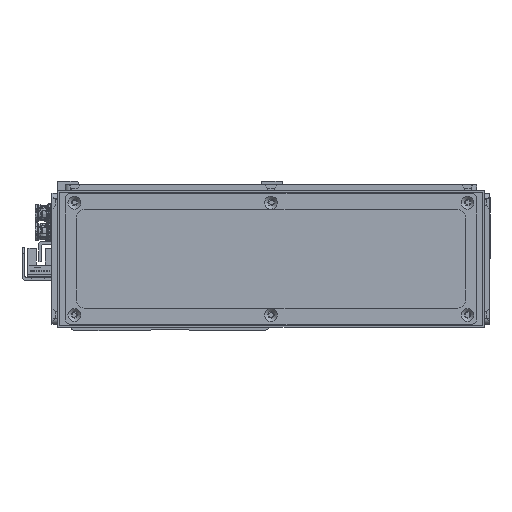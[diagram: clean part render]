
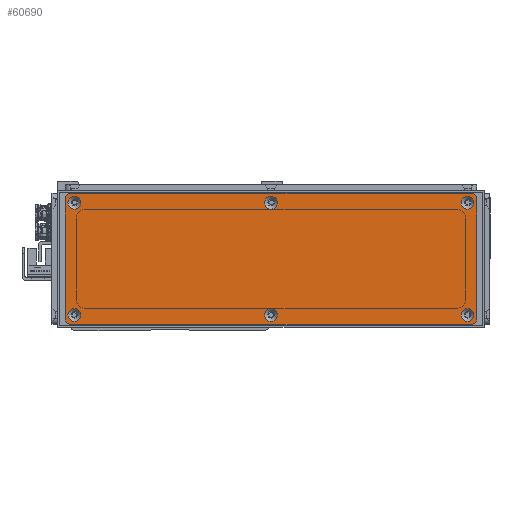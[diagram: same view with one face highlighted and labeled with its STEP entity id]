
A CAD part, front view. The second image highlights one B-rep face of the part: STEP entity #60690.
In plain terms, the highlighted planar face has unit normal (0, -1, 0).
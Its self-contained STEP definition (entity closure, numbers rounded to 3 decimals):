
#1520=FACE_BOUND('',#11047,.T.);
#1521=FACE_BOUND('',#11048,.T.);
#1522=FACE_BOUND('',#11049,.T.);
#1523=FACE_BOUND('',#11050,.T.);
#1524=FACE_BOUND('',#11051,.T.);
#1525=FACE_BOUND('',#11052,.T.);
#3594=PLANE('',#65432);
#7576=FACE_OUTER_BOUND('',#11046,.T.);
#11046=EDGE_LOOP('',(#56453,#56454,#56455,#56456,#56457,#56458,#56459,#56460));
#11047=EDGE_LOOP('',(#56461));
#11048=EDGE_LOOP('',(#56462));
#11049=EDGE_LOOP('',(#56463));
#11050=EDGE_LOOP('',(#56464));
#11051=EDGE_LOOP('',(#56465));
#11052=EDGE_LOOP('',(#56466));
#17692=LINE('',#101493,#24374);
#17693=LINE('',#101497,#24375);
#17694=LINE('',#101501,#24376);
#17695=LINE('',#101504,#24377);
#24374=VECTOR('',#80497,10.);
#24375=VECTOR('',#80500,10.);
#24376=VECTOR('',#80503,10.);
#24377=VECTOR('',#80506,10.);
#25972=CIRCLE('',#65400,3.45);
#25975=CIRCLE('',#65405,3.45);
#25978=CIRCLE('',#65410,3.45);
#25981=CIRCLE('',#65415,3.45);
#25984=CIRCLE('',#65420,3.45);
#25987=CIRCLE('',#65425,3.45);
#25990=CIRCLE('',#65430,3.);
#25992=CIRCLE('',#65433,3.);
#25993=CIRCLE('',#65434,3.);
#25994=CIRCLE('',#65435,3.);
#31559=VERTEX_POINT('',#101423);
#31562=VERTEX_POINT('',#101433);
#31565=VERTEX_POINT('',#101443);
#31568=VERTEX_POINT('',#101453);
#31571=VERTEX_POINT('',#101463);
#31574=VERTEX_POINT('',#101473);
#31577=VERTEX_POINT('',#101483);
#31578=VERTEX_POINT('',#101484);
#31581=VERTEX_POINT('',#101492);
#31582=VERTEX_POINT('',#101494);
#31583=VERTEX_POINT('',#101496);
#31584=VERTEX_POINT('',#101498);
#31585=VERTEX_POINT('',#101500);
#31586=VERTEX_POINT('',#101502);
#39910=EDGE_CURVE('',#31559,#31559,#25972,.T.);
#39915=EDGE_CURVE('',#31562,#31562,#25975,.T.);
#39920=EDGE_CURVE('',#31565,#31565,#25978,.T.);
#39925=EDGE_CURVE('',#31568,#31568,#25981,.T.);
#39930=EDGE_CURVE('',#31571,#31571,#25984,.T.);
#39935=EDGE_CURVE('',#31574,#31574,#25987,.T.);
#39940=EDGE_CURVE('',#31577,#31578,#25990,.T.);
#39944=EDGE_CURVE('',#31577,#31581,#17692,.T.);
#39945=EDGE_CURVE('',#31582,#31581,#25992,.T.);
#39946=EDGE_CURVE('',#31582,#31583,#17693,.T.);
#39947=EDGE_CURVE('',#31584,#31583,#25993,.T.);
#39948=EDGE_CURVE('',#31584,#31585,#17694,.T.);
#39949=EDGE_CURVE('',#31586,#31585,#25994,.T.);
#39950=EDGE_CURVE('',#31586,#31578,#17695,.T.);
#56453=ORIENTED_EDGE('',*,*,#39940,.F.);
#56454=ORIENTED_EDGE('',*,*,#39944,.T.);
#56455=ORIENTED_EDGE('',*,*,#39945,.F.);
#56456=ORIENTED_EDGE('',*,*,#39946,.T.);
#56457=ORIENTED_EDGE('',*,*,#39947,.F.);
#56458=ORIENTED_EDGE('',*,*,#39948,.T.);
#56459=ORIENTED_EDGE('',*,*,#39949,.F.);
#56460=ORIENTED_EDGE('',*,*,#39950,.T.);
#56461=ORIENTED_EDGE('',*,*,#39910,.T.);
#56462=ORIENTED_EDGE('',*,*,#39915,.T.);
#56463=ORIENTED_EDGE('',*,*,#39920,.T.);
#56464=ORIENTED_EDGE('',*,*,#39925,.T.);
#56465=ORIENTED_EDGE('',*,*,#39930,.T.);
#56466=ORIENTED_EDGE('',*,*,#39935,.T.);
#60690=ADVANCED_FACE('',(#7576,#1520,#1521,#1522,#1523,#1524,#1525),#3594,
 .T.);
#65400=AXIS2_PLACEMENT_3D('',#101424,#80417,#80418);
#65405=AXIS2_PLACEMENT_3D('',#101434,#80429,#80430);
#65410=AXIS2_PLACEMENT_3D('',#101444,#80441,#80442);
#65415=AXIS2_PLACEMENT_3D('',#101454,#80453,#80454);
#65420=AXIS2_PLACEMENT_3D('',#101464,#80465,#80466);
#65425=AXIS2_PLACEMENT_3D('',#101474,#80477,#80478);
#65430=AXIS2_PLACEMENT_3D('',#101485,#80489,#80490);
#65432=AXIS2_PLACEMENT_3D('',#101491,#80495,#80496);
#65433=AXIS2_PLACEMENT_3D('',#101495,#80498,#80499);
#65434=AXIS2_PLACEMENT_3D('',#101499,#80501,#80502);
#65435=AXIS2_PLACEMENT_3D('',#101503,#80504,#80505);
#80417=DIRECTION('center_axis',(0.,1.,0.));
#80418=DIRECTION('ref_axis',(1.,0.,0.));
#80429=DIRECTION('center_axis',(0.,1.,0.));
#80430=DIRECTION('ref_axis',(1.,0.,0.));
#80441=DIRECTION('center_axis',(0.,1.,0.));
#80442=DIRECTION('ref_axis',(1.,0.,0.));
#80453=DIRECTION('center_axis',(0.,1.,0.));
#80454=DIRECTION('ref_axis',(1.,0.,0.));
#80465=DIRECTION('center_axis',(0.,1.,0.));
#80466=DIRECTION('ref_axis',(1.,0.,0.));
#80477=DIRECTION('center_axis',(0.,1.,0.));
#80478=DIRECTION('ref_axis',(1.,0.,0.));
#80489=DIRECTION('center_axis',(0.,1.,0.));
#80490=DIRECTION('ref_axis',(-0.707,0.,0.707));
#80495=DIRECTION('center_axis',(0.,-1.,0.));
#80496=DIRECTION('ref_axis',(0.,0.,-1.));
#80497=DIRECTION('',(0.,0.,-1.));
#80498=DIRECTION('center_axis',(0.,1.,0.));
#80499=DIRECTION('ref_axis',(-0.707,0.,-0.707));
#80500=DIRECTION('',(1.,0.,0.));
#80501=DIRECTION('center_axis',(0.,1.,0.));
#80502=DIRECTION('ref_axis',(0.707,0.,-0.707));
#80503=DIRECTION('',(0.,0.,1.));
#80504=DIRECTION('center_axis',(0.,1.,0.));
#80505=DIRECTION('ref_axis',(0.707,0.,0.707));
#80506=DIRECTION('',(-1.,0.,0.));
#101423=CARTESIAN_POINT('',(101.55,-1.5,30.));
#101424=CARTESIAN_POINT('Origin',(105.,-1.5,30.));
#101433=CARTESIAN_POINT('',(-3.45,-1.5,-30.));
#101434=CARTESIAN_POINT('Origin',(0.,-1.5,-30.));
#101443=CARTESIAN_POINT('',(-108.45,-1.5,30.));
#101444=CARTESIAN_POINT('Origin',(-105.,-1.5,30.));
#101453=CARTESIAN_POINT('',(-108.45,-1.5,-30.));
#101454=CARTESIAN_POINT('Origin',(-105.,-1.5,-30.));
#101463=CARTESIAN_POINT('',(-3.45,-1.5,30.));
#101464=CARTESIAN_POINT('Origin',(0.,-1.5,30.));
#101473=CARTESIAN_POINT('',(101.55,-1.5,-30.));
#101474=CARTESIAN_POINT('Origin',(105.,-1.5,-30.));
#101483=CARTESIAN_POINT('',(-110.,-1.5,32.));
#101484=CARTESIAN_POINT('',(-107.,-1.5,35.));
#101485=CARTESIAN_POINT('Origin',(-107.,-1.5,32.));
#101491=CARTESIAN_POINT('Origin',(0.,-1.5,0.));
#101492=CARTESIAN_POINT('',(-110.,-1.5,-32.));
#101493=CARTESIAN_POINT('',(-110.,-1.5,35.));
#101494=CARTESIAN_POINT('',(-107.,-1.5,-35.));
#101495=CARTESIAN_POINT('Origin',(-107.,-1.5,-32.));
#101496=CARTESIAN_POINT('',(107.,-1.5,-35.));
#101497=CARTESIAN_POINT('',(-110.,-1.5,-35.));
#101498=CARTESIAN_POINT('',(110.,-1.5,-32.));
#101499=CARTESIAN_POINT('Origin',(107.,-1.5,-32.));
#101500=CARTESIAN_POINT('',(110.,-1.5,32.));
#101501=CARTESIAN_POINT('',(110.,-1.5,-35.));
#101502=CARTESIAN_POINT('',(107.,-1.5,35.));
#101503=CARTESIAN_POINT('Origin',(107.,-1.5,32.));
#101504=CARTESIAN_POINT('',(110.,-1.5,35.));
